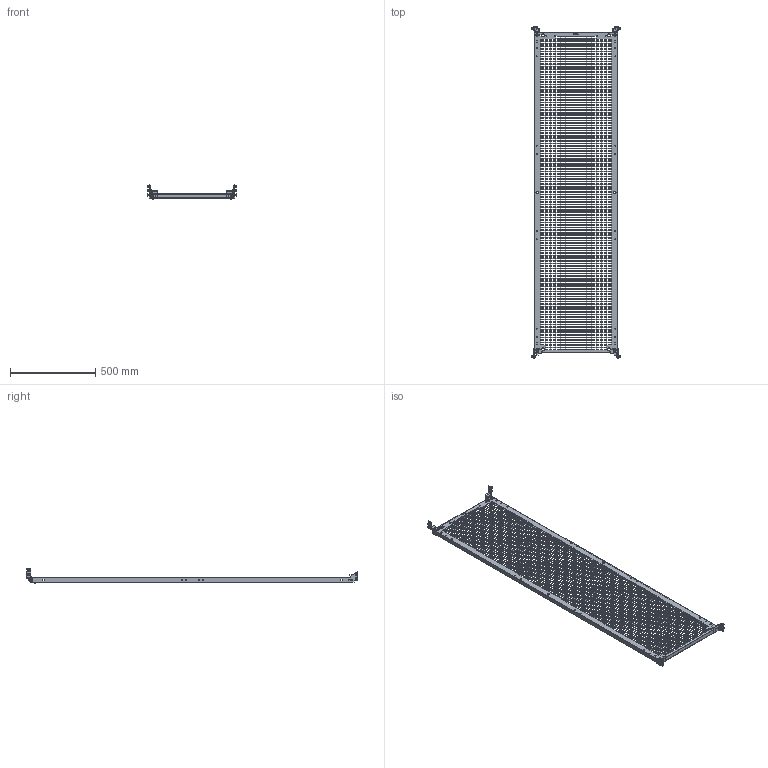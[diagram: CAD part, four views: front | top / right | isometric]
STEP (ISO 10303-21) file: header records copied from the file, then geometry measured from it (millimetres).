
FILE_DESCRIPTION (( 'STEP AP203' ), '1' );
FILE_NAME ('R5NPCEP2060.STEP', '2025-03-26T10:54:08', ( '' ), ( '' ), 'SwSTEP 2.0', 'SolidWorks 2022', '' );
FILE_SCHEMA (( 'CONFIG_CONTROL_DESIGN' ));
Length unit declared in the file: millimetre
Products named in the file (20): RB.2814.00.01.0; AC00C237; M6x16 DIN 912 HX cl.4,8 Zinc_thread; RB.2684.00.01.0; М6 D87181 Zinc_In a tightened position (1.5 mm); 003-006-19 GOST 9833-73; R5NPCEP2060; RB.2628.00.00.0_-26; RB.2814.00.00.0 СБ; RB.2814.00.01.0_-01; RB.1499.00.03.0; RB.2697.00.00.0; RB.2684.00.00.0 СБ; RB.2684.00.03.0; RB.2684.00.01.0_-01; RB.2684.00.00.0 СБ_-01; M6 MGR-MKO-0625_1,5mm (thread); M6x16 DIN 7985 Torx cl.8,8 Zinc_stright; RB.2709.00.00.0; RB.2814.00.00.0 СБ_-01
Assembly tree (43 placements, depth 3):
  R5NPCEP2060
    RB.2628.00.00.0_-26
    RB.2814.00.00.0 СБ_-01
      RB.2814.00.01.0_-01
      M6 MGR-MKO-0625_1,5mm (thread)
    RB.2814.00.00.0 СБ
      RB.2814.00.01.0
      M6 MGR-MKO-0625_1,5mm (thread)
    M6x16 DIN 912 HX cl.4,8 Zinc_thread  x2
    AC00C237  x2
    RB.2684.00.00.0 СБ_-01
      RB.2684.00.01.0_-01
      RB.2684.00.03.0
      RB.1499.00.03.0
      RB.2697.00.00.0
      003-006-19 GOST 9833-73  x2
    RB.2684.00.00.0 СБ
      RB.2684.00.01.0
      RB.2684.00.03.0
      RB.1499.00.03.0
      003-006-19 GOST 9833-73  x2
      RB.2697.00.00.0
    M6x16 DIN 7985 Torx cl.8,8 Zinc_stright  x8
    М6 D87181 Zinc_In a tightened position (1.5 mm)  x8
    RB.2709.00.00.0  x2
Bounding box: 528.3 x 1950.46 x 84.5 mm (x, y, z)
Volume: 1623857 mm3; surface area: 1636195.9 mm2
Topology: 39 solids, 39 shells, 9123 faces, 26613 edges, 17499 vertices
Faces by surface type: plane 7982, cylinder 514, bspline 301, cone 186, torus 132, sphere 8
Full cylindrical faces by diameter (mm): 0.6 x12, 2.3 x4, 2.5 x4, 3.8 x6, 4 x2, 4.2 x4, 4.92 x14, 5 x16, 6 x60, 6.5 x8, 6.7 x2, 7 x12, 7.5 x2, 8 x4, 8.3 x8, 9 x6, 10 x4, 12 x26, 15 x6
Entity records: 264343 total; most frequent: CARTESIAN_POINT 49679, ORIENTED_EDGE 45108, DIRECTION 38163, EDGE_CURVE 22554, VECTOR 21925, LINE 21925, VERTEX_POINT 15104, EDGE_LOOP 11506
